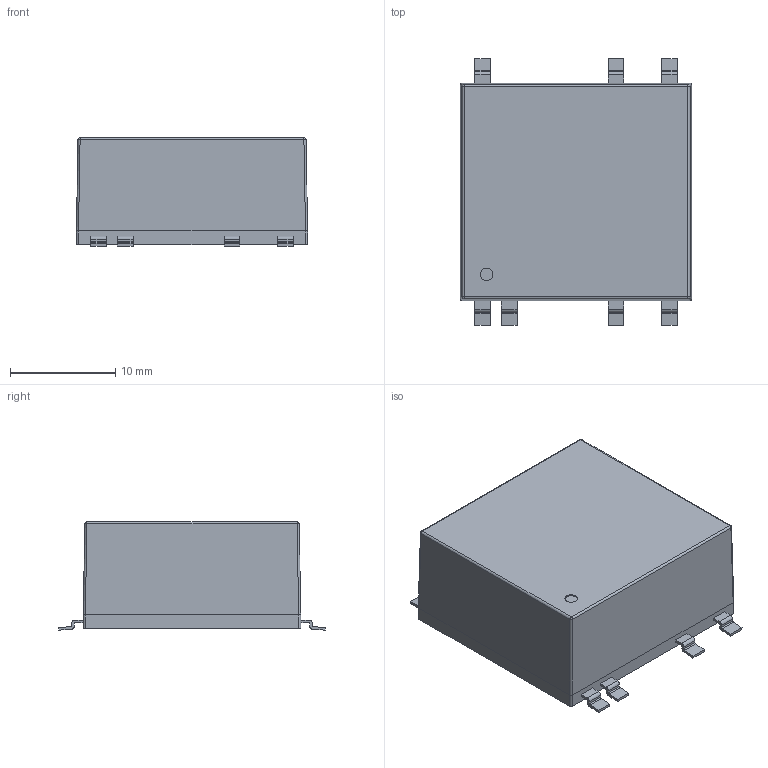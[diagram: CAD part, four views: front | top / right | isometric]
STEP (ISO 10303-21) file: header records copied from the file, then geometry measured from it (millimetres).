
FILE_DESCRIPTION(/* description */ (''),/* implementation_level */ '2;1');
FILE_NAME(/* name */ 'C:\Users\Calliope\Desktop\MS+水洗孔3D\THL 6WISM (MSGWI06-W).stp',/* time_stamp */ '2016-03-17T16:17:30+08:00',/* author */ ('Calliope'),/* organization */ (''),/* preprocessor_version */ 'ST-DEVELOPER v15.6',/* originating_system */ 'Autodesk Inventor 2015',/* authorisation */ '');
FILE_SCHEMA (('AUTOMOTIVE_DESIGN { 1 0 10303 214 3 1 1 }'));
Length unit declared in the file: millimetre
Products named in the file (3): MSGWI06-W Header; MSGWI06-W Cover; MSGWI06
Assembly tree (2 placements, depth 2):
  MSGWI06
    MSGWI06-W Header
    MSGWI06-W Cover
Bounding box: 22 x 25.4 x 10.31 mm (x, y, z)
Volume: 1549.9 mm3; surface area: 3455.8 mm2
Topology: 2 solids, 3 shells, 154 faces, 395 edges, 250 vertices
Faces by surface type: plane 89, cylinder 57, bspline 4, sphere 4
Full cylindrical faces by diameter (mm): 1 x1, 1.2 x1, 1.5 x1, 4.3 x1, 5.5 x1
Entity records: 4731 total; most frequent: CARTESIAN_POINT 887, DIRECTION 806, ORIENTED_EDGE 764, EDGE_CURVE 382, AXIS2_PLACEMENT_3D 269, LINE 268, VECTOR 268, VERTEX_POINT 250
